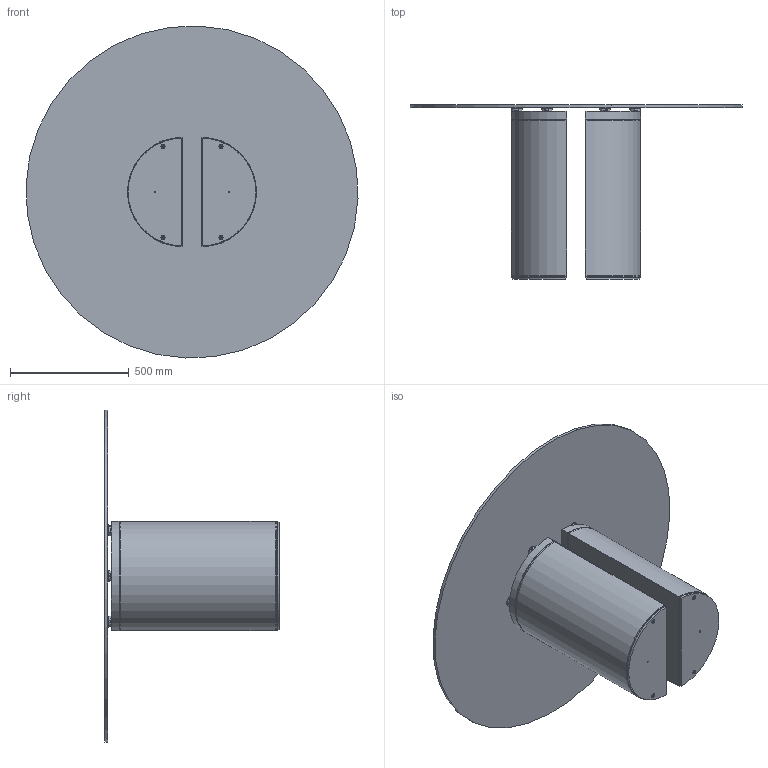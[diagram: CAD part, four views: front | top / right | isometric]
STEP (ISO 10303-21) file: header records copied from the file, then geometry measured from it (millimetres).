
FILE_DESCRIPTION (( 'STEP AP203' ), '1' );
FILE_NAME ('140.STEP', '2024-08-06T14:27:35', ( '' ), ( '' ), 'SwSTEP 2.0', 'SolidWorks 2022', '' );
FILE_SCHEMA (( 'CONFIG_CONTROL_DESIGN' ));
Length unit declared in the file: millimetre
Products named in the file (12): PIASTRE DOPPIE D.46 PER TRASPARENTE FEMMINA_Ø46; Assieme Basamento PLAI_basamento per trasparente; M8xXXmm_hex_M8X20mm; CXXCRXXD-01-Piani Rotondi in Cristallo CON DISCO_C06CR0DR PIANO CRISTALLO Ø140cm DORA; PLA000000ZOC-01-PLAI ZOCCOLO DELLA BASE; C1XCRMXX-00-piani Rotondi Cristallo TRASPARENTE_C06 D.140cm; M8xXXmm_M8x50mm; 140; Grano M6_M6x8; PLA000000SPE-01-SPESSORE PER PLAI TRASPARENTE; PLA000000BAS-00-PLAI BASE GREZZA; PIASTRE DOPPIE D.46 PER TRASPARENTE MASCHIO_Ø46
Assembly tree (25 placements, depth 3):
  140
    Assieme Basamento PLAI_basamento per trasparente  x2
      PLA000000BAS-00-PLAI BASE GREZZA
      PLA000000SPE-01-SPESSORE PER PLAI TRASPARENTE
      PIASTRE DOPPIE D.46 PER TRASPARENTE FEMMINA_Ø46
      PLA000000ZOC-01-PLAI ZOCCOLO DELLA BASE
      M8xXXmm_M8x50mm
      M8xXXmm_hex_M8X20mm
    Grano M6_M6x8  x4
    CXXCRXXD-01-Piani Rotondi in Cristallo CON DISCO_C06CR0DR PIANO CRISTALLO Ø140cm DORA
      C1XCRMXX-00-piani Rotondi Cristallo TRASPARENTE_C06 D.140cm
      PIASTRE DOPPIE D.46 PER TRASPARENTE MASCHIO_Ø46  x6
    PIASTRE DOPPIE D.46 PER TRASPARENTE FEMMINA_Ø46  x2
Bounding box: 1398.96 x 735.5 x 1398.96 mm (x, y, z)
Volume: 29979724.1 mm3; surface area: 7486108.4 mm2
Topology: 37 solids, 37 shells, 734 faces, 1634 edges, 982 vertices
Faces by surface type: plane 286, cylinder 264, cone 148, torus 24, bspline 12
Entity records: 8619 total; most frequent: CARTESIAN_POINT 2325, DIRECTION 1042, ORIENTED_EDGE 906, EDGE_CURVE 453, AXIS2_PLACEMENT_3D 417, VERTEX_POINT 279, EDGE_LOOP 238, VECTOR 208
